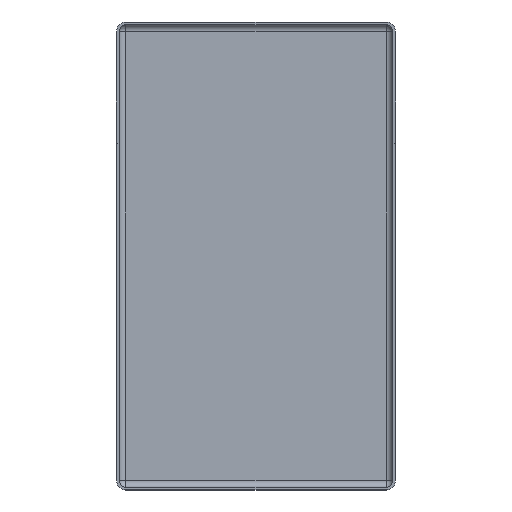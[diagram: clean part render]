
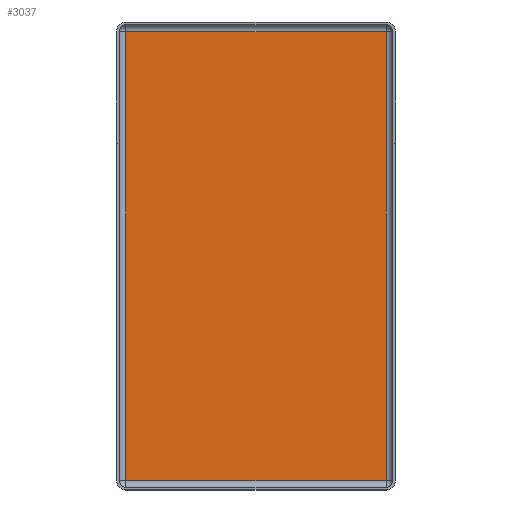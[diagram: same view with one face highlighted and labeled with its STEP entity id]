
A CAD part, top view. The second image highlights one B-rep face of the part: STEP entity #3037.
In plain terms, the highlighted planar face has unit normal (0, 0, 1).
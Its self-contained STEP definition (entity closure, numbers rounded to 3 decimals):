
#2664 = CARTESIAN_POINT ( 'NONE',  ( 3.5, -3.5, 1. ) ) ;
#2666 = DIRECTION ( 'NONE',  ( 0., -1., 0. ) ) ;
#2667 = VECTOR ( 'NONE', #2666, 1000. ) ;
#2668 = LINE ( 'NONE', #2672, #2667 ) ;
#2672 = CARTESIAN_POINT ( 'NONE',  ( 100., -173.5, 1. ) ) ;
#2677 = CARTESIAN_POINT ( 'NONE',  ( 100., -3.5, 1. ) ) ;
#2678 = CARTESIAN_POINT ( 'NONE',  ( 100., -170., 1. ) ) ;
#2687 = DIRECTION ( 'NONE',  ( -1., 0., 0. ) ) ;
#2688 = VECTOR ( 'NONE', #2687, 1000. ) ;
#2689 = LINE ( 'NONE', #2701, #2688 ) ;
#2691 = DIRECTION ( 'NONE',  ( 1., 0., 0. ) ) ;
#2692 = VECTOR ( 'NONE', #2691, 1000. ) ;
#2693 = CARTESIAN_POINT ( 'NONE',  ( 0., -3.5, 1. ) ) ;
#2694 = LINE ( 'NONE', #2693, #2692 ) ;
#2696 = PLANE ( 'NONE',  #2747 ) ;
#2697 = DIRECTION ( 'NONE',  ( 0., 1., 0. ) ) ;
#2698 = VECTOR ( 'NONE', #2697, 1000. ) ;
#2700 = LINE ( 'NONE', #2707, #2698 ) ;
#2701 = CARTESIAN_POINT ( 'NONE',  ( 0., -170., 1. ) ) ;
#2702 = CARTESIAN_POINT ( 'NONE',  ( 3.5, -170., 1. ) ) ;
#2707 = CARTESIAN_POINT ( 'NONE',  ( 3.5, -173.5, 1. ) ) ;
#2708 = FACE_OUTER_BOUND ( 'NONE', #3015, .T. ) ;
#2744 = DIRECTION ( 'NONE',  ( 1., 0., 0. ) ) ;
#2745 = DIRECTION ( 'NONE',  ( 0., 0., 1. ) ) ;
#2746 = CARTESIAN_POINT ( 'NONE',  ( 0., -173.5, 1. ) ) ;
#2747 = AXIS2_PLACEMENT_3D ( 'NONE', #2746, #2745, #2744 ) ;
#3009 = VERTEX_POINT ( 'NONE', #2677 ) ;
#3014 = EDGE_CURVE ( 'NONE', #3009, #3016, #2668, .T. ) ;
#3015 = EDGE_LOOP ( 'NONE', ( #3028, #3021, #3033, #3025 ) ) ;
#3016 = VERTEX_POINT ( 'NONE', #2678 ) ;
#3020 = VERTEX_POINT ( 'NONE', #2664 ) ;
#3021 = ORIENTED_EDGE ( 'NONE', *, *, #3031, .F. ) ;
#3025 = ORIENTED_EDGE ( 'NONE', *, *, #3032, .F. ) ;
#3028 = ORIENTED_EDGE ( 'NONE', *, *, #3014, .F. ) ;
#3029 = EDGE_CURVE ( 'NONE', #3030, #3020, #2700, .T. ) ;
#3030 = VERTEX_POINT ( 'NONE', #2702 ) ;
#3031 = EDGE_CURVE ( 'NONE', #3020, #3009, #2694, .T. ) ;
#3032 = EDGE_CURVE ( 'NONE', #3016, #3030, #2689, .T. ) ;
#3033 = ORIENTED_EDGE ( 'NONE', *, *, #3029, .F. ) ;
#3037 = ADVANCED_FACE ( 'NONE', ( #2708 ), #2696, .T. ) ;
